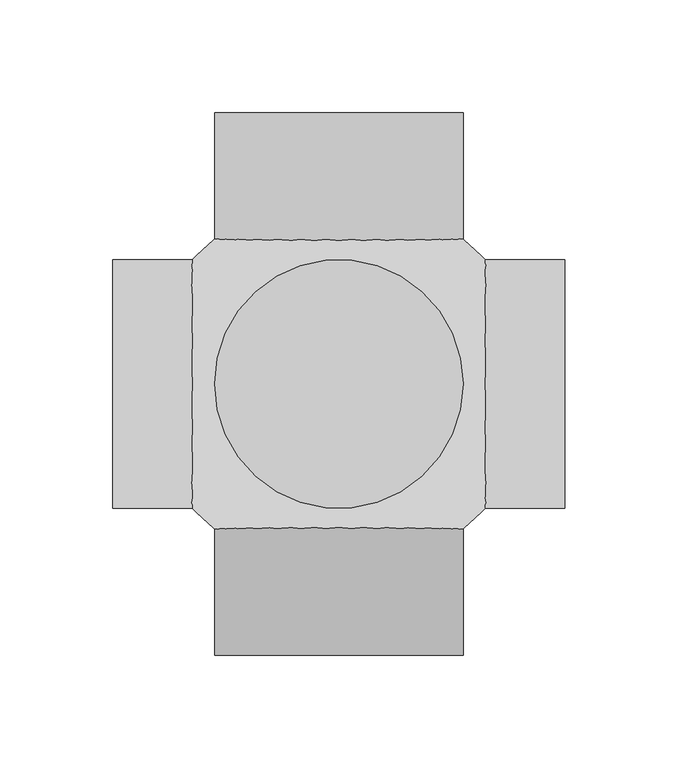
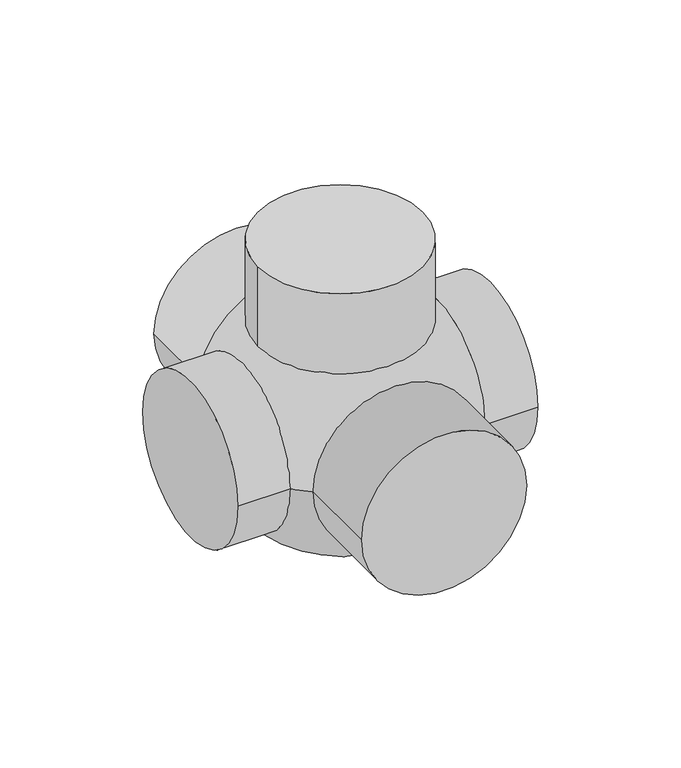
"""IFC4 building model written with IfcOpenShell, lengths in millimetres: pipe fitting geometry, NLRS_52_PIF_UN_PE kogel T-stuk 88,5° drievoudig, aansluitingen 90° sprong_geb : DN60-150 / ø63-160."""

from ifc_helpers import new_model, si_unit, point, frame, origin, origin_with_axes, origin_2d, place, context, project, spatial, circle_curve, ellipse_curve, trimmed, segment, composite_curve, outline, extrude, source, transform, mapped, element, save
from ifc_brep_helpers import plane_surface, cylinder_surface, revolved_surface, advanced_brep


def pipe_fitting_200c67d1(model_context):
    return source(origin(), model_context, "Body", "SolidModel", [
        extrude(outline(composite_curve([segment(trimmed(circle_curve(origin_2d(), 55.0), [point((0.0, -55.0))], [point((0.0, 55.0))], False, "CARTESIAN"), True, "CONTINUOUS"), segment(trimmed(circle_curve(origin_2d(), 55.0), [point((0.0, 55.0))], [point((0.0, -55.0))], False, "CARTESIAN"), True, "CONTINUOUS")], self_intersect=False)), frame((0.0, -120.0, 0.0), z_axis=(0.0, 1.0, 0.0), x_axis=(0.0, 0.0, 1.0)), (0.0, 0.0, 1.0), 120.0),
        extrude(outline(composite_curve([segment(trimmed(circle_curve(origin_2d(), 55.0), [point((0.0, 55.0))], [point((0.0, -55.0))], False, "CARTESIAN"), True, "CONTINUOUS"), segment(trimmed(circle_curve(origin_2d(), 55.0), [point((0.0, -55.0))], [point((0.0, 55.0))], False, "CARTESIAN"), True, "CONTINUOUS")], self_intersect=False)), frame((0.0, 0.0, 0.0), z_axis=(0.0, 1.0, 0.0), x_axis=(0.0, 0.0, 1.0)), (0.0, 0.0, 1.0), 120.0),
        extrude(outline(composite_curve([segment(trimmed(circle_curve(origin_2d(), 55.0), [point((55.0, 0.0))], [point((-55.0, 0.0))], False, "CARTESIAN"), True, "CONTINUOUS"), segment(trimmed(circle_curve(origin_2d(), 55.0), [point((-55.0, 0.0))], [point((55.0, 0.0))], False, "CARTESIAN"), True, "CONTINUOUS")], self_intersect=False)), origin_with_axes(), (0.0, 0.0, 1.0), 120.0),
        advanced_brep(
        [(0.0, -85.0, 0.0), (-64.807407, -55.0, 0.0), (-64.807407, 55.0, 0.0), (0.0, 85.0, 0.0), (64.807407, 55.0, 0.0), (64.807407, -55.0, 0.0), (100.0, -55.0, 0.0), (100.0, 55.0, 0.0), (-100.0, -55.0, 0.0), (-100.0, 55.0, 0.0)],
        [
            (0, 1, circle_curve(frame((0.0, 0.0, 0.0), z_axis=(0.0, 0.0, -1.0), x_axis=(1.0, 0.0, 0.0)), 85.0)),
            (1, 2, circle_curve(frame((-64.807407, 0.0, 0.0), z_axis=(1.0, 0.0, 0.0), x_axis=(0.0, 1.0, 0.0)), 55.0)),
            (2, 3, circle_curve(frame((0.0, 0.0, 0.0), z_axis=(0.0, 0.0, -1.0), x_axis=(1.0, 0.0, 0.0)), 85.0)),
            (3, 4, circle_curve(frame((0.0, 0.0, 0.0), z_axis=(0.0, 0.0, -1.0), x_axis=(-1.0, 0.0, 0.0)), 85.0)),
            (4, 5, circle_curve(frame((64.807407, 0.0, 0.0), z_axis=(-1.0, 0.0, 0.0), x_axis=(0.0, 1.0, 0.0)), 55.0)),
            (5, 0, circle_curve(frame((0.0, 0.0, 0.0), z_axis=(0.0, 0.0, -1.0), x_axis=(-1.0, 0.0, 0.0)), 85.0)),
            (5, 4, circle_curve(frame((64.807407, 0.0, 0.0), z_axis=(-1.0, 0.0, 0.0), x_axis=(0.0, 1.0, 0.0)), 55.0)),
            (2, 1, circle_curve(frame((-64.807407, 0.0, 0.0), z_axis=(1.0, 0.0, 0.0), x_axis=(0.0, 1.0, 0.0)), 55.0)),
            (6, 7, circle_curve(frame((100.0, 0.0, 0.0), z_axis=(1.0, 0.0, 0.0), x_axis=(0.0, 1.0, 0.0)), 55.0)),
            (7, 6, circle_curve(frame((100.0, 0.0, 0.0), z_axis=(1.0, 0.0, 0.0), x_axis=(0.0, 1.0, 0.0)), 55.0)),
            (8, 9, circle_curve(frame((-100.0, 0.0, 0.0), z_axis=(-1.0, 0.0, 0.0), x_axis=(0.0, 1.0, 0.0)), 55.0)),
            (9, 8, circle_curve(frame((-100.0, 0.0, 0.0), z_axis=(-1.0, 0.0, 0.0), x_axis=(0.0, 1.0, 0.0)), 55.0)),
            (6, 5),
            (4, 7),
            (9, 2),
            (1, 8),
        ],
        [
            revolved_surface(trimmed(ellipse_curve(origin_with_axes(), 85.0, 85.0), [point((0.0, 85.0, 0.0))], [point((0.0, -85.0, 0.0))], True, "CARTESIAN"), (0.0, 125.0, 0.0), (0.0, -1.0, 0.0)),
            plane_surface(frame((100.0, 55.0, 0.0), z_axis=(1.0, 0.0, 0.0), x_axis=(0.0, 0.0, 1.0))),
            plane_surface(frame((-100.0, 55.0, 0.0), z_axis=(-1.0, 0.0, 0.0), x_axis=(0.0, 0.0, -1.0))),
            cylinder_surface(frame((-100.0, 0.0, 0.0), z_axis=(1.0, 0.0, 0.0), x_axis=(0.0, 1.0, 0.0)), 55.0),
        ],
        [
            (0, [[1, 2, 3, 4, 5, 6]]),
            (0, [[-1, -6, 7, -4, -3, 8]]),
            (1, [[9, 10]]),
            (2, [[11, 12]]),
            (3, [[-9, 13, -5, 14]]),
            (3, [[-12, 15, -2, 16]]),
            (3, [[-10, -14, -7, -13]]),
            (3, [[-11, -16, -8, -15]]),
        ],
    ),
    ])


if __name__ == "__main__":
    model = new_model("IFC4")
    model_context = context("Model", 3, world=origin())
    ifc_project = project(units=[si_unit("LENGTHUNIT", "METRE", prefix="MILLI")], contexts=[model_context])
    site = spatial("IfcSite", under=ifc_project)
    building = spatial("IfcBuilding", under=site)
    placement = place(None, origin())
    pipe_fitting_shape = pipe_fitting_200c67d1(model_context)
    element("IfcPipeFitting", 1, ObjectType="NLRS_52_PIF_UN_PE kogel T-stuk 88,5° drievoudig, aansluitingen 90° sprong_geb : DN60-150 / ø63-160", at=placement, inside=building, context=model_context, shape_type="MappedRepresentation", body=[
        mapped(pipe_fitting_shape, transform((0.0, 0.0, 0.0), x_axis=(1.0, 0.0, 0.0), y_axis=(0.0, 1.0, 0.0), z_axis=(0.0, 0.0, 1.0))),
    ])
    save(model, "model.ifc")
